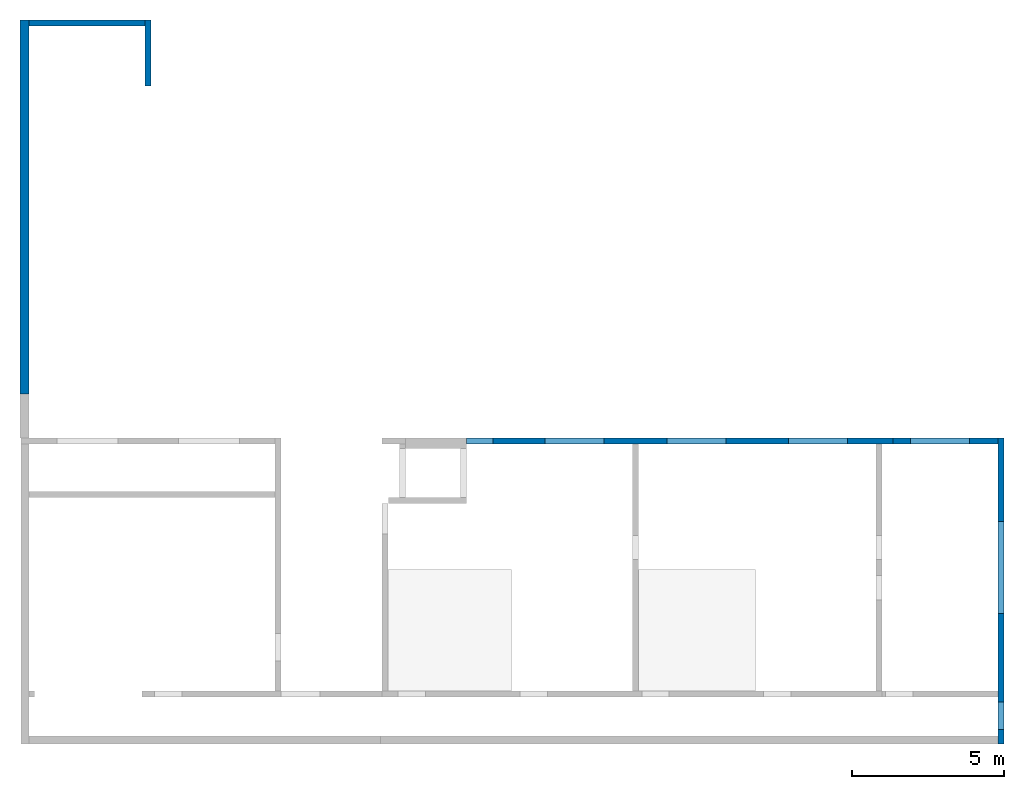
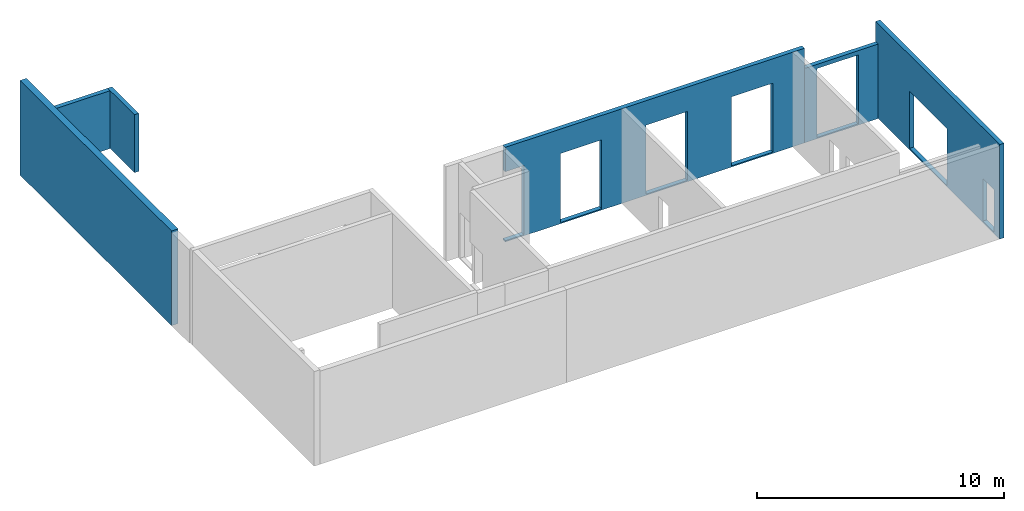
# One storey, part 2 of 2: 6 walls, 7 openings.
"""IFC2X3 building model written with IfcOpenShell, lengths in metres."""

from ifc_helpers import new_model, entity, si_unit, converted_unit, derived_unit, direction, frame, frame_2d, origin, origin_2d_with_axis, place, context, subcontext, project, spatial, rectangle, extrude, material, layer, layer_set, layer_usage, type_object, element, save


model = new_model("IFC2X3")

# Units and contexts
model_context = context("Model", 3, precision=1e-05, world=origin(), true_north=direction((6.12303176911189e-17, 1.0)))
body_context = subcontext(model_context, "Body", "Model", "MODEL_VIEW")
ifc_project = project(units=[si_unit("LENGTHUNIT", "METRE"), si_unit("AREAUNIT", "SQUARE_METRE"), si_unit("VOLUMEUNIT", "CUBIC_METRE"), converted_unit("PLANEANGLEUNIT", "DEGREE", entity("IfcRatioMeasure", 0.0174532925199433), si_unit("PLANEANGLEUNIT", "RADIAN"), dimensions=[0, 0, 0, 0, 0, 0, 0]), si_unit("MASSUNIT", "GRAM", prefix="KILO"), derived_unit("MASSDENSITYUNIT", [(si_unit("MASSUNIT", "GRAM", prefix="KILO"), 1), (si_unit("LENGTHUNIT", "METRE"), -3)]), si_unit("TIMEUNIT", "SECOND"), si_unit("FREQUENCYUNIT", "HERTZ"), si_unit("THERMODYNAMICTEMPERATUREUNIT", "DEGREE_CELSIUS"), derived_unit("THERMALTRANSMITTANCEUNIT", [(si_unit("MASSUNIT", "GRAM", prefix="KILO"), 1), (si_unit("THERMODYNAMICTEMPERATUREUNIT", "KELVIN"), -1), (si_unit("TIMEUNIT", "SECOND"), -3)]), derived_unit("VOLUMETRICFLOWRATEUNIT", [(si_unit("LENGTHUNIT", "METRE"), 3), (si_unit("TIMEUNIT", "SECOND"), -1)]), si_unit("ELECTRICCURRENTUNIT", "AMPERE"), si_unit("ELECTRICVOLTAGEUNIT", "VOLT"), si_unit("POWERUNIT", "WATT"), si_unit("FORCEUNIT", "NEWTON"), si_unit("ILLUMINANCEUNIT", "LUX"), si_unit("LUMINOUSFLUXUNIT", "LUMEN"), si_unit("LUMINOUSINTENSITYUNIT", "CANDELA"), derived_unit("USERDEFINED", [(si_unit("MASSUNIT", "GRAM", prefix="KILO"), -1), (si_unit("LENGTHUNIT", "METRE"), -2), (si_unit("TIMEUNIT", "SECOND"), 3), (si_unit("LUMINOUSFLUXUNIT", "LUMEN"), 1)]), derived_unit("LINEARVELOCITYUNIT", [(si_unit("LENGTHUNIT", "METRE"), 1), (si_unit("TIMEUNIT", "SECOND"), -1)]), si_unit("PRESSUREUNIT", "PASCAL"), derived_unit("USERDEFINED", [(si_unit("LENGTHUNIT", "METRE"), -2), (si_unit("MASSUNIT", "GRAM", prefix="KILO"), 1), (si_unit("TIMEUNIT", "SECOND"), -2)])], contexts=[model_context])

# Site, building, storey
site_placement = place(None, origin())
site = spatial("IfcSite", under=ifc_project, at=site_placement, Name="Default", CompositionType="ELEMENT")
building_placement = place(site_placement, origin())
building = spatial("IfcBuilding", under=site, at=building_placement, CompositionType="ELEMENT")
storey_placement = place(building_placement, frame((0.0, 0.0, -4.68)))
storey = spatial("IfcBuildingStorey", under=building, at=storey_placement, Name="S02", CompositionType="ELEMENT", Elevation=-4.68)

# Wall, openings
ifc_material = material(Name="Mur par défaut")
ifc_layer_1 = layer(ifc_material, 0.2)
ifc_layer_set_1 = layer_set([ifc_layer_1], Name="Basic Wall:Mur BA - 20cm")
ifc_layer_usage_1 = layer_usage(ifc_layer_set_1, "AXIS2", "NEGATIVE", 0.1)
wall_type_1 = type_object("IfcWallType", Name="Basic Wall:Mur BA - 20cm", PredefinedType="STANDARD", material=ifc_layer_set_1)
wall_1_placement = place(storey_placement, frame((65.4897436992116, -195.001320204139, 0.0), z_axis=(0.0, 0.0, 1.0), x_axis=(0.0, 1.0, 0.0)))
wall_1 = element("IfcWallStandardCase", 1, at=wall_1_placement, inside=storey, type_object=wall_type_1, material=ifc_layer_usage_1, Name="Basic Wall:Mur BA - 20cm", ObjectType="Basic Wall:Mur BA - 20cm", context=body_context, shape_type="SweptSolid", body=[
    extrude(rectangle(XDim=10.0448319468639, YDim=0.200000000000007, at=frame_2d((5.02241597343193, 2.70616862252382e-16), x_axis=(-1.0, 0.0))), origin(), (0.0, 0.0, 1.0), 4.68),
])
opening_1_placement = place(wall_1_placement, frame((195.001320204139, 65.4897436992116, 0.0600000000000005), z_axis=(0.0, 0.0, 1.0), x_axis=(0.0, -1.0, 0.0)))
element("IfcOpeningElement", 2, at=opening_1_placement, cuts=wall_1, Name="Basic Wall:Mur BA - 20cm", ObjectType="Opening", context=body_context, shape_type="SweptSolid", body=[
    extrude(rectangle(XDim=2.81499999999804, YDim=3.03, at=frame_2d((0.0, -1.73194791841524e-14), x_axis=(1.0, 0.0))), frame((66.9137436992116, -189.208069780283, 1.40749999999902), z_axis=(-1.0, 0.0, 0.0), x_axis=(0.0, 0.0, 1.0)), (0.0, 0.0, 1.0), 3.048),
])
opening_2_placement = place(wall_1_placement, frame((195.001320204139, 65.4897436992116, 0.0600000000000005), z_axis=(0.0, 0.0, 1.0), x_axis=(0.0, -1.0, 0.0)))
element("IfcOpeningElement", 3, at=opening_2_placement, cuts=wall_1, Name="Basic Wall:Mur BA - 20cm", ObjectType="Opening", context=body_context, shape_type="SweptSolid", body=[
    extrude(rectangle(XDim=2.09999999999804, YDim=0.900000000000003, at=origin_2d_with_axis()), frame((66.9137436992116, -194.079651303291, 1.04999999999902), z_axis=(-1.0, 0.0, 0.0), x_axis=(0.0, 0.0, 1.0)), (0.0, 0.0, 1.0), 3.048),
])

# Wall, opening
ifc_layer_usage_2 = layer_usage(ifc_layer_set_1, "AXIS2", "NEGATIVE", 0.1)
wall_2_placement = place(storey_placement, frame((65.3897436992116, -185.056488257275, 0.0), z_axis=(0.0, 0.0, 1.0), x_axis=(-1.0, 0.0, 0.0)))
wall_2 = element("IfcWallStandardCase", 4, at=wall_2_placement, inside=storey, type_object=wall_type_1, material=ifc_layer_usage_2, Name="Basic Wall:Mur BA - 20cm", ObjectType="Basic Wall:Mur BA - 20cm", context=body_context, shape_type="SweptSolid", body=[
    extrude(rectangle(XDim=3.44000000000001, YDim=0.200000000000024, at=frame_2d((1.72, 5.93969318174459e-15), x_axis=(-1.0, 0.0))), origin(), (0.0, 0.0, 1.0), 3.68),
])
opening_3_placement = place(wall_2_placement, frame((65.3897436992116, -185.056488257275, 0.0600000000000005), z_axis=(0.0, 0.0, 1.0), x_axis=(-1.0, 0.0, 0.0)))
element("IfcOpeningElement", 5, at=opening_3_placement, cuts=wall_2, Name="Basic Wall:Mur BA - 20cm", ObjectType="Opening", context=body_context, shape_type="SweptSolid", body=[
    extrude(rectangle(XDim=3.40999999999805, YDim=1.94, at=frame_2d((-3.33066907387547e-16, -4.32986979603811e-15), x_axis=(1.0, 0.0))), frame((63.4897436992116, -183.632488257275, 1.70499999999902), z_axis=(0.0, -1.0, 0.0), x_axis=(0.0, 0.0, 1.0)), (0.0, 0.0, 1.0), 3.048),
])

# Wall, openings
ifc_layer_usage_3 = layer_usage(ifc_layer_set_1, "AXIS2", "NEGATIVE", 0.1)
wall_3_placement = place(storey_placement, frame((61.9497436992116, -185.056488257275, 0.0), z_axis=(0.0, 0.0, 1.0), x_axis=(-1.0, 0.0, 0.0)))
wall_3 = element("IfcWallStandardCase", 6, at=wall_3_placement, inside=storey, type_object=wall_type_1, material=ifc_layer_usage_3, Name="Basic Wall:Mur BA - 20cm", ObjectType="Basic Wall:Mur BA - 20cm", context=body_context, shape_type="SweptSolid", body=[
    extrude(rectangle(XDim=13.9999999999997, YDim=0.200000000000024, at=frame_2d((6.99999999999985, -1.04777297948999e-14), x_axis=(-1.0, 0.0))), origin(), (0.0, 0.0, 1.0), 4.68),
])
opening_4_placement = place(wall_3_placement, frame((61.9497436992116, -185.056488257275, 0.0600000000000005), z_axis=(0.0, 0.0, 1.0), x_axis=(-1.0, 0.0, 0.0)))
element("IfcOpeningElement", 7, at=opening_4_placement, cuts=wall_3, Name="Basic Wall:Mur BA - 20cm", ObjectType="Opening", context=body_context, shape_type="SweptSolid", body=[
    extrude(rectangle(XDim=3.40999999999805, YDim=0.869999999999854, at=frame_2d((-3.33066907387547e-16, 0.0), x_axis=(1.0, 0.0))), frame((48.3847436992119, -183.632488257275, 1.70499999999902), z_axis=(0.0, -1.0, 0.0), x_axis=(0.0, 0.0, 1.0)), (0.0, 0.0, 1.0), 3.048),
])
opening_5_placement = place(wall_3_placement, frame((61.9497436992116, -185.056488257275, 0.0600000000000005), z_axis=(0.0, 0.0, 1.0), x_axis=(-1.0, 0.0, 0.0)))
element("IfcOpeningElement", 8, at=opening_5_placement, cuts=wall_3, Name="Basic Wall:Mur BA - 20cm", ObjectType="Opening", context=body_context, shape_type="SweptSolid", body=[
    extrude(rectangle(XDim=3.40999999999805, YDim=1.94, at=frame_2d((-3.33066907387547e-16, 4.32986979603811e-15), x_axis=(1.0, 0.0))), frame((51.4897436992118, -183.632488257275, 1.70499999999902), z_axis=(0.0, -1.0, 0.0), x_axis=(0.0, 0.0, 1.0)), (0.0, 0.0, 1.0), 3.048),
])
opening_6_placement = place(wall_3_placement, frame((61.9497436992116, -185.056488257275, 0.0600000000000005), z_axis=(0.0, 0.0, 1.0), x_axis=(-1.0, 0.0, 0.0)))
element("IfcOpeningElement", 9, at=opening_6_placement, cuts=wall_3, Name="Basic Wall:Mur BA - 20cm", ObjectType="Opening", context=body_context, shape_type="SweptSolid", body=[
    extrude(rectangle(XDim=3.40999999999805, YDim=1.94, at=frame_2d((-3.33066907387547e-16, -4.32986979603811e-15), x_axis=(1.0, 0.0))), frame((55.4897436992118, -183.632488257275, 1.70499999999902), z_axis=(0.0, -1.0, 0.0), x_axis=(0.0, 0.0, 1.0)), (0.0, 0.0, 1.0), 3.048),
])
opening_7_placement = place(wall_3_placement, frame((61.9497436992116, -185.056488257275, 0.0600000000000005), z_axis=(0.0, 0.0, 1.0), x_axis=(-1.0, 0.0, 0.0)))
element("IfcOpeningElement", 10, at=opening_7_placement, cuts=wall_3, Name="Basic Wall:Mur BA - 20cm", ObjectType="Opening", context=body_context, shape_type="SweptSolid", body=[
    extrude(rectangle(XDim=3.40999999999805, YDim=1.94, at=frame_2d((-3.33066907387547e-16, -4.32986979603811e-15), x_axis=(1.0, 0.0))), frame((59.4897436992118, -183.632488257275, 1.70499999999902), z_axis=(0.0, -1.0, 0.0), x_axis=(0.0, 0.0, 1.0)), (0.0, 0.0, 1.0), 3.048),
])

# Walls
ifc_layer_usage_4 = layer_usage(ifc_layer_set_1, "AXIS2", "NEGATIVE", 0.1)
wall_4_placement = place(storey_placement, frame((37.3897436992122, -171.33478277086, 0.0), z_axis=(0.0, 0.0, 1.0), x_axis=(-1.0, 0.0, 0.0)))
element("IfcWallStandardCase", 11, at=wall_4_placement, inside=storey, type_object=wall_type_1, material=ifc_layer_usage_4, Name="Basic Wall:Mur BA - 20cm", ObjectType="Basic Wall:Mur BA - 20cm", context=body_context, shape_type="SweptSolid", body=[
    extrude(rectangle(XDim=3.79999999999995, YDim=0.200000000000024, at=frame_2d((1.89999999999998, 6.57113252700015e-15), x_axis=(-1.0, 0.0))), origin(), (0.0, 0.0, 1.0), 2.86),
])
ifc_layer_usage_5 = layer_usage(ifc_layer_set_1, "AXIS2", "NEGATIVE", 0.1)
wall_5_placement = place(storey_placement, frame((37.4897436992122, -173.406729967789, 0.0), z_axis=(0.0, 0.0, 1.0), x_axis=(0.0, 1.0, 0.0)))
element("IfcWallStandardCase", 12, at=wall_5_placement, inside=storey, type_object=wall_type_1, material=ifc_layer_usage_5, Name="Basic Wall:Mur BA - 20cm", ObjectType="Basic Wall:Mur BA - 20cm", context=body_context, shape_type="SweptSolid", body=[
    extrude(rectangle(XDim=2.17194719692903, YDim=0.199999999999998, at=frame_2d((1.08597359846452, -5.82867087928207e-16), x_axis=(-1.0, 0.0))), origin(), (0.0, 0.0, 1.0), 2.86),
])
ifc_layer_2 = layer(ifc_material, 0.3)
ifc_layer_set_2 = layer_set([ifc_layer_2], Name="Basic Wall:Mur BA Contre terre - 30cm")
ifc_layer_usage_6 = layer_usage(ifc_layer_set_2, "AXIS2", "NEGATIVE", 0.15)
wall_type_2 = type_object("IfcWallType", Name="Basic Wall:Mur BA Contre terre - 30cm", PredefinedType="STANDARD", material=ifc_layer_set_2)
wall_6_placement = place(storey_placement, frame((33.4397436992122, -171.23478277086, 0.0), z_axis=(0.0, 0.0, 1.0), x_axis=(0.0, -1.0, 0.0)))
element("IfcWallStandardCase", 13, at=wall_6_placement, inside=storey, type_object=wall_type_2, material=ifc_layer_usage_6, Name="Basic Wall:Mur BA Contre terre - 30cm", ObjectType="Basic Wall:Mur BA Contre terre - 30cm", context=body_context, shape_type="SweptSolid", body=[
    extrude(rectangle(XDim=12.2800362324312, YDim=0.300000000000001, at=frame_2d((6.1400181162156, 1.04083408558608e-15), x_axis=(-1.0, 0.0))), origin(), (0.0, 0.0, 1.0), 4.68),
])

save(model, "model.ifc")
